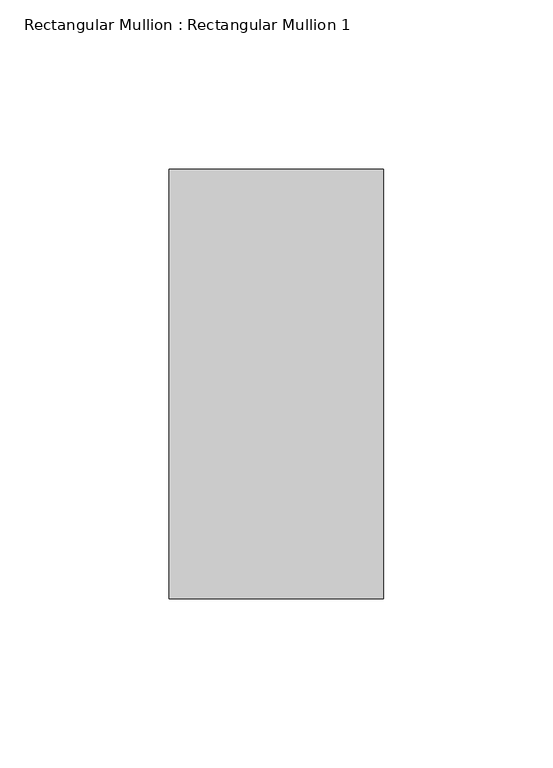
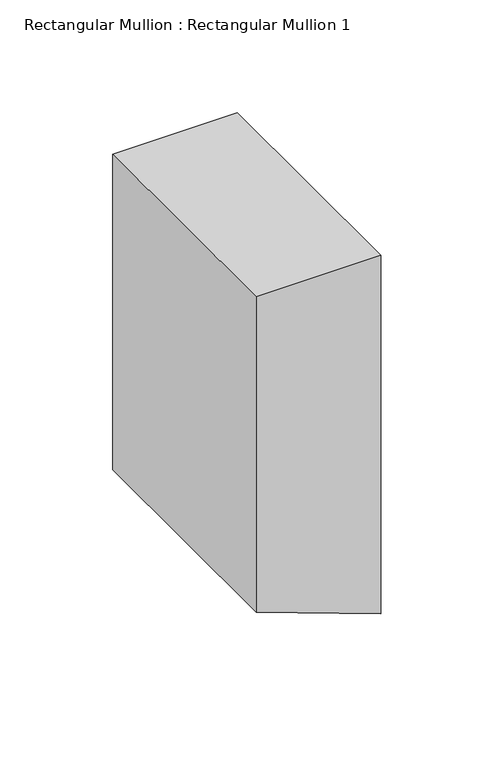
"""IFC4 building model written with IfcOpenShell, lengths in millimetres: member geometry, Rectangular Mullion : Rectangular Mullion 1."""

from ifc_helpers import new_model, si_unit, frame, origin, place, context, project, spatial, polyline, outline, extrude, source, transform, mapped, element, save


def rectangular_mullion_rectangular_mullion_1_f5986535(model_context):
    return source(origin(), model_context, "Body", "SweptSolid", [
        extrude(outline(polyline([(0.0, 0.0), (0.0, -63.5), (-170.6543439, -63.5), (-193.7664538, 0.0), (0.0, 0.0)])), frame((0.0, -63.5, 0.0), z_axis=(0.0, 1.0, 0.0), x_axis=(0.0, 0.0, 1.0)), (0.0, 0.0, 1.0), 127.0),
    ])


if __name__ == "__main__":
    model = new_model("IFC4")
    model_context = context("Model", 3, world=origin())
    ifc_project = project(units=[si_unit("LENGTHUNIT", "METRE", prefix="MILLI")], contexts=[model_context])
    site = spatial("IfcSite", under=ifc_project)
    building = spatial("IfcBuilding", under=site)
    placement = place(None, origin())
    rectangular_mullion_rectangular_mullion_1_shape = rectangular_mullion_rectangular_mullion_1_f5986535(model_context)
    element("IfcMember", 1, ObjectType="Rectangular Mullion : Rectangular Mullion 1", at=placement, inside=building, context=model_context, shape_type="MappedRepresentation", body=[
        mapped(rectangular_mullion_rectangular_mullion_1_shape, transform((0.0, 0.0, 0.0), x_axis=(1.0, 0.0, 0.0), y_axis=(0.0, 1.0, 0.0), z_axis=(0.0, 0.0, 1.0))),
    ])
    save(model, "model.ifc")
